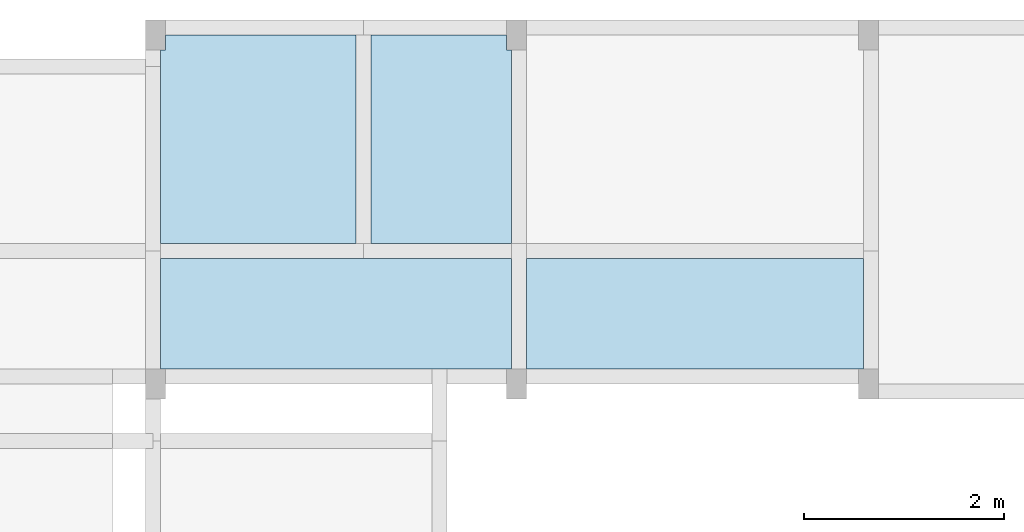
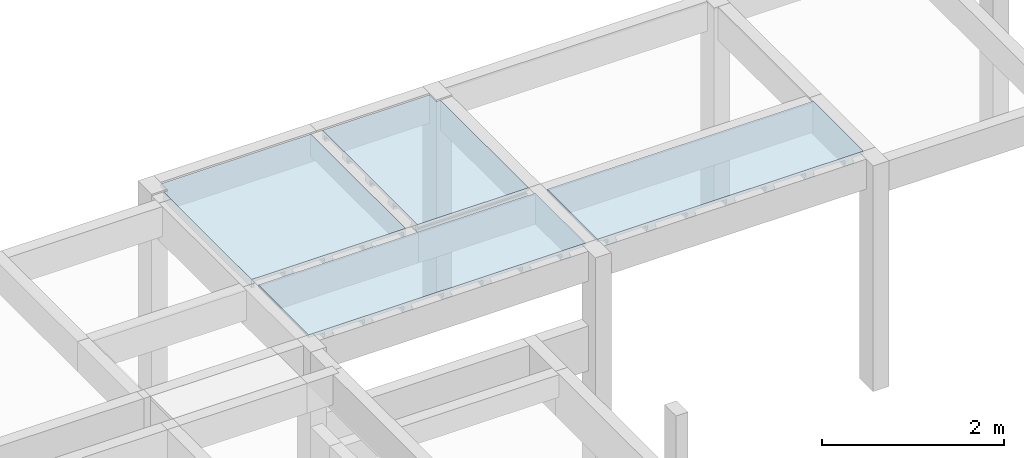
# One storey, part 17 of 21: 4 slabs.
"""IFC4 building model written with IfcOpenShell, lengths in centimetres."""

from ifc_helpers import new_model, si_unit, derived_unit, frame, origin_with_axes, place, context, project, spatial, polyline, outline, extrude, faceted_brep, material, element, save


model = new_model("IFC4")

# Units and contexts
model_context = context("Model", 3, precision=1e-05, world=origin_with_axes(), identifier="Body")
ifc_project = project(units=[si_unit("LENGTHUNIT", "METRE", prefix="CENTI"), si_unit("VOLUMEUNIT", "CUBIC_METRE"), si_unit("AREAUNIT", "SQUARE_METRE"), si_unit("POWERUNIT", "WATT"), si_unit("LUMINOUSFLUXUNIT", "LUMEN"), si_unit("ELECTRICCURRENTUNIT", "AMPERE"), si_unit("PRESSUREUNIT", "PASCAL", prefix="KILO"), si_unit("MASSUNIT", "GRAM", prefix="KILO"), si_unit("PLANEANGLEUNIT", "RADIAN"), derived_unit("VOLUMETRICFLOWRATEUNIT", [(si_unit("LENGTHUNIT", "METRE"), 3), (si_unit("TIMEUNIT", "SECOND"), -1)])], contexts=[model_context])

# Site, building, storey
site_placement = place(None, origin_with_axes())
site = spatial("IfcSite", under=ifc_project, at=site_placement)
building_placement = place(site_placement, frame((0.0, 0.0, -295.0)))
building = spatial("IfcBuilding", under=site, at=building_placement)
placement_1 = place(building_placement, origin_with_axes())
placement_2 = place(placement_1, frame((0.0, 0.0, 101.0), z_axis=(0.0, 0.0, 1.0), x_axis=(1.0, 0.0, 0.0)))
placement_3 = place(placement_2, frame((0.0, 0.0, 204.0), z_axis=(0.0, 0.0, 1.0), x_axis=(1.0, 0.0, 0.0)))
placement_4 = place(placement_3, frame((0.0, 0.0, 292.0), z_axis=(0.0, 0.0, 1.0), x_axis=(1.0, 0.0, 0.0)))
storey_placement = place(placement_4, frame((0.0, 0.0, 302.0), z_axis=(0.0, 0.0, 1.0), x_axis=(1.0, 0.0, 0.0)))
storey = spatial("IfcBuildingStorey", under=building, at=storey_placement, Name="PAVTO 02", CompositionType="ELEMENT", Elevation=604.0)

# Slabs
ifc_material = material(Name="Concreto")
slab_1_placement = place(storey_placement, frame((1286.4, -5190.295006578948, -2.0), z_axis=(0.0, 0.0, 1.0), x_axis=(1.0, 0.0, 0.0)))
element("IfcSlab", 1, at=slab_1_placement, inside=storey, material=ifc_material, Name="L203", PredefinedType="FLOOR", context=model_context, shape_type="SolidModel", body=[
    extrude(outline(polyline([(97.5, 104.045), (-92.5, 104.044), (-92.499, 89.185), (-97.5, 89.184), (-97.5, -104.045), (97.5, -104.045), (97.5, 104.045), (97.5, 104.045)])), frame((0.0, 0.0, -4.0), z_axis=(0.0, 0.0, 1.0), x_axis=(1.0, 0.0, 0.0)), (0.0, 0.0, 1.0), 4.0),
    faceted_brep([(-5.0, -104.04499342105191, -12.0), (-5.0, 104.04450657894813, -12.0), (5.0, 104.04450657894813, -12.0), (5.0, -104.04499342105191, -12.0), (5.0, -104.04499342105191, -4.0), (5.0, 104.04450657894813, -4.0), (-5.0, 104.04450657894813, -4.0), (-5.0, -104.04499342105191, -4.0)], [[[0, 1, 2, 3]], [[4, 5, 6, 7]], [[4, 3, 5]], [[3, 2, 5]], [[5, 2, 6]], [[2, 1, 6]], [[6, 1, 7]], [[1, 0, 7]], [[7, 0, 4]], [[0, 3, 4]]]),
    faceted_brep([(-6.5, -104.04499342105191, -12.0), (-6.5, 104.04450657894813, -12.0), (-5.0, 104.04450657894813, -12.0), (-5.0, -104.04499342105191, -12.0), (-5.0, -104.04499342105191, -9.0), (-5.0, 104.04450657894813, -9.0), (-6.5, 104.04450657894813, -9.0), (-6.5, -104.04499342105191, -9.0)], [[[0, 1, 2, 3]], [[4, 5, 6, 7]], [[4, 3, 5]], [[3, 2, 5]], [[5, 2, 6]], [[2, 1, 6]], [[6, 1, 7]], [[1, 0, 7]], [[7, 0, 4]], [[0, 3, 4]]]),
    faceted_brep([(5.0, -104.04499342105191, -12.0), (5.0, 104.04450657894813, -12.0), (6.5, 104.04450657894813, -12.0), (6.5, -104.04499342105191, -12.0), (6.5, -104.04499342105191, -9.0), (6.5, 104.04450657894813, -9.0), (5.0, 104.04450657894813, -9.0), (5.0, -104.04499342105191, -9.0)], [[[0, 1, 2, 3]], [[4, 5, 6, 7]], [[4, 3, 5]], [[3, 2, 5]], [[5, 2, 6]], [[2, 1, 6]], [[6, 1, 7]], [[1, 0, 7]], [[7, 0, 4]], [[0, 3, 4]]]),
    faceted_brep([(-55.0, -104.04499342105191, -12.0), (-55.0, 104.04450657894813, -12.0), (-45.0, 104.04450657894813, -12.0), (-45.0, -104.04499342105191, -12.0), (-45.0, -104.04499342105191, -4.0), (-45.0, 104.04450657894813, -4.0), (-55.0, 104.04450657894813, -4.0), (-55.0, -104.04499342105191, -4.0)], [[[0, 1, 2, 3]], [[4, 5, 6, 7]], [[4, 3, 5]], [[3, 2, 5]], [[5, 2, 6]], [[2, 1, 6]], [[6, 1, 7]], [[1, 0, 7]], [[7, 0, 4]], [[0, 3, 4]]]),
    faceted_brep([(-56.5, -104.04499342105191, -12.0), (-56.5, 104.04450657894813, -12.0), (-55.0, 104.04450657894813, -12.0), (-55.0, -104.04499342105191, -12.0), (-55.0, -104.04499342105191, -9.0), (-55.0, 104.04450657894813, -9.0), (-56.5, 104.04450657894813, -9.0), (-56.5, -104.04499342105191, -9.0)], [[[0, 1, 2, 3]], [[4, 5, 6, 7]], [[4, 3, 5]], [[3, 2, 5]], [[5, 2, 6]], [[2, 1, 6]], [[6, 1, 7]], [[1, 0, 7]], [[7, 0, 4]], [[0, 3, 4]]]),
    faceted_brep([(-45.0, -104.04499342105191, -12.0), (-45.0, 104.04450657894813, -12.0), (-43.5, 104.04450657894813, -12.0), (-43.5, -104.04499342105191, -12.0), (-43.5, -104.04499342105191, -9.0), (-43.5, 104.04450657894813, -9.0), (-45.0, 104.04450657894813, -9.0), (-45.0, -104.04499342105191, -9.0)], [[[0, 1, 2, 3]], [[4, 5, 6, 7]], [[4, 3, 5]], [[3, 2, 5]], [[5, 2, 6]], [[2, 1, 6]], [[6, 1, 7]], [[1, 0, 7]], [[7, 0, 4]], [[0, 3, 4]]]),
    faceted_brep([(-97.5, -104.04499342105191, -12.0), (-97.5, 89.18450647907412, -12.0), (-95.0, 89.18450657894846, -12.0), (-95.0, -104.04499342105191, -12.0), (-95.0, -104.04499342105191, -4.0), (-95.0, 89.18450657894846, -4.0), (-97.5, 89.18450647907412, -4.0), (-97.5, -104.04499342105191, -4.0)], [[[0, 1, 2, 3]], [[4, 5, 6, 7]], [[4, 3, 5]], [[3, 2, 5]], [[5, 2, 6]], [[2, 1, 6]], [[6, 1, 7]], [[1, 0, 7]], [[7, 0, 4]], [[0, 3, 4]]]),
    faceted_brep([(-95.0, -104.04499342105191, -12.0), (-95.0, 89.18450657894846, -12.0), (-93.5, 89.18450657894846, -12.0), (-93.5, -104.04499342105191, -12.0), (-93.5, -104.04499342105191, -9.0), (-93.5, 89.18450657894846, -9.0), (-95.0, 89.18450657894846, -9.0), (-95.0, -104.04499342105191, -9.0)], [[[0, 1, 2, 3]], [[4, 5, 6, 7]], [[4, 3, 5]], [[3, 2, 5]], [[5, 2, 6]], [[2, 1, 6]], [[6, 1, 7]], [[1, 0, 7]], [[7, 0, 4]], [[0, 3, 4]]]),
    faceted_brep([(45.0, -104.04499342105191, -12.0), (45.0, 104.04450657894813, -12.0), (55.0, 104.04450657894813, -12.0), (55.0, -104.04499342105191, -12.0), (55.0, -104.04499342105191, -4.0), (55.0, 104.04450657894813, -4.0), (45.0, 104.04450657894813, -4.0), (45.0, -104.04499342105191, -4.0)], [[[0, 1, 2, 3]], [[4, 5, 6, 7]], [[4, 3, 5]], [[3, 2, 5]], [[5, 2, 6]], [[2, 1, 6]], [[6, 1, 7]], [[1, 0, 7]], [[7, 0, 4]], [[0, 3, 4]]]),
    faceted_brep([(43.5, -104.04499342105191, -12.0), (43.5, 104.04450657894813, -12.0), (45.0, 104.04450657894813, -12.0), (45.0, -104.04499342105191, -12.0), (45.0, -104.04499342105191, -9.0), (45.0, 104.04450657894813, -9.0), (43.5, 104.04450657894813, -9.0), (43.5, -104.04499342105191, -9.0)], [[[0, 1, 2, 3]], [[4, 5, 6, 7]], [[4, 3, 5]], [[3, 2, 5]], [[5, 2, 6]], [[2, 1, 6]], [[6, 1, 7]], [[1, 0, 7]], [[7, 0, 4]], [[0, 3, 4]]]),
    faceted_brep([(55.0, -104.04499342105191, -12.0), (55.0, 104.04450657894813, -12.0), (56.5, 104.04450657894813, -12.0), (56.5, -104.04499342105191, -12.0), (56.5, -104.04499342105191, -9.0), (56.5, 104.04450657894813, -9.0), (55.0, 104.04450657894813, -9.0), (55.0, -104.04499342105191, -9.0)], [[[0, 1, 2, 3]], [[4, 5, 6, 7]], [[4, 3, 5]], [[3, 2, 5]], [[5, 2, 6]], [[2, 1, 6]], [[6, 1, 7]], [[1, 0, 7]], [[7, 0, 4]], [[0, 3, 4]]]),
    faceted_brep([(95.0, -104.04499342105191, -12.0), (95.0, 104.04450657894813, -12.0), (97.5, 104.044993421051, -12.0), (97.5, -104.04499342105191, -12.0), (97.5, -104.04499342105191, -4.0), (97.5, 104.044993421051, -4.0), (95.0, 104.04450657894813, -4.0), (95.0, -104.04499342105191, -4.0)], [[[0, 1, 2, 3]], [[4, 5, 6, 7]], [[4, 3, 5]], [[3, 2, 5]], [[5, 2, 6]], [[2, 1, 6]], [[6, 1, 7]], [[1, 0, 7]], [[7, 0, 4]], [[0, 3, 4]]]),
    faceted_brep([(93.5, -104.04499342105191, -12.0), (93.5, 104.04450657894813, -12.0), (95.0, 104.04450657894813, -12.0), (95.0, -104.04499342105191, -12.0), (95.0, -104.04499342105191, -9.0), (95.0, 104.04450657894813, -9.0), (93.5, 104.04450657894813, -9.0), (93.5, -104.04499342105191, -9.0)], [[[0, 1, 2, 3]], [[4, 5, 6, 7]], [[4, 3, 5]], [[3, 2, 5]], [[5, 2, 6]], [[2, 1, 6]], [[6, 1, 7]], [[1, 0, 7]], [[7, 0, 4]], [[0, 3, 4]]]),
])
slab_2_placement = place(storey_placement, frame((1469.1505, -5190.295, -2.0), z_axis=(0.0, 0.0, 1.0), x_axis=(1.0, 0.0, 0.0)))
element("IfcSlab", 2, at=slab_2_placement, inside=storey, material=ifc_material, Name="L204", PredefinedType="FLOOR", context=model_context, shape_type="SolidModel", body=[
    extrude(outline(polyline([(70.249, 89.185), (65.25, 89.185), (65.25, 104.045), (-70.249, 104.045), (-70.249, -104.045), (70.25, -104.045), (70.249, 89.185), (70.249, 89.185)])), frame((-0.0005, 0.0, -4.0), z_axis=(0.0, 0.0, 1.0), x_axis=(1.0, 0.0, 0.0)), (0.0, 0.0, 1.0), 4.0),
    faceted_brep([(-70.2495, -90.0, -12.0), (70.249, -90.0, -12.0), (70.249, -100.0, -12.0), (-70.2495, -100.0, -12.0), (-70.2495, -100.0, -4.0), (70.249, -100.0, -4.0), (70.249, -90.0, -4.0), (-70.2495, -90.0, -4.0)], [[[0, 1, 2, 3]], [[4, 5, 6, 7]], [[4, 3, 5]], [[3, 2, 5]], [[5, 2, 6]], [[2, 1, 6]], [[6, 1, 7]], [[1, 0, 7]], [[7, 0, 4]], [[0, 3, 4]]]),
    faceted_brep([(-70.2495, -88.5, -12.0), (70.249, -88.5, -12.0), (70.249, -90.0, -12.0), (-70.2495, -90.0, -12.0), (-70.2495, -90.0, -9.0), (70.249, -90.0, -9.0), (70.249, -88.5, -9.0), (-70.2495, -88.5, -9.0)], [[[0, 1, 2, 3]], [[4, 5, 6, 7]], [[4, 3, 5]], [[3, 2, 5]], [[5, 2, 6]], [[2, 1, 6]], [[6, 1, 7]], [[1, 0, 7]], [[7, 0, 4]], [[0, 3, 4]]]),
    faceted_brep([(-70.2495, -100.0, -12.0), (70.249, -100.0, -12.0), (70.249, -101.5, -12.0), (-70.2495, -101.5, -12.0), (-70.2495, -101.5, -9.0), (70.249, -101.5, -9.0), (70.249, -100.0, -9.0), (-70.2495, -100.0, -9.0)], [[[0, 1, 2, 3]], [[4, 5, 6, 7]], [[4, 3, 5]], [[3, 2, 5]], [[5, 2, 6]], [[2, 1, 6]], [[6, 1, 7]], [[1, 0, 7]], [[7, 0, 4]], [[0, 3, 4]]]),
    faceted_brep([(-70.2495, -40.0, -12.0), (70.249, -40.0, -12.0), (70.249, -50.0, -12.0), (-70.2495, -50.0, -12.0), (-70.2495, -50.0, -4.0), (70.249, -50.0, -4.0), (70.249, -40.0, -4.0), (-70.2495, -40.0, -4.0)], [[[0, 1, 2, 3]], [[4, 5, 6, 7]], [[4, 3, 5]], [[3, 2, 5]], [[5, 2, 6]], [[2, 1, 6]], [[6, 1, 7]], [[1, 0, 7]], [[7, 0, 4]], [[0, 3, 4]]]),
    faceted_brep([(-70.2495, -38.5, -12.0), (70.249, -38.5, -12.0), (70.249, -40.0, -12.0), (-70.2495, -40.0, -12.0), (-70.2495, -40.0, -9.0), (70.249, -40.0, -9.0), (70.249, -38.5, -9.0), (-70.2495, -38.5, -9.0)], [[[0, 1, 2, 3]], [[4, 5, 6, 7]], [[4, 3, 5]], [[3, 2, 5]], [[5, 2, 6]], [[2, 1, 6]], [[6, 1, 7]], [[1, 0, 7]], [[7, 0, 4]], [[0, 3, 4]]]),
    faceted_brep([(-70.2495, -50.0, -12.0), (70.249, -50.0, -12.0), (70.249, -51.5, -12.0), (-70.2495, -51.5, -12.0), (-70.2495, -51.5, -9.0), (70.249, -51.5, -9.0), (70.249, -50.0, -9.0), (-70.2495, -50.0, -9.0)], [[[0, 1, 2, 3]], [[4, 5, 6, 7]], [[4, 3, 5]], [[3, 2, 5]], [[5, 2, 6]], [[2, 1, 6]], [[6, 1, 7]], [[1, 0, 7]], [[7, 0, 4]], [[0, 3, 4]]]),
    faceted_brep([(-70.2495, 10.0, -12.0), (70.249, 10.0, -12.0), (70.249, 0.0, -12.0), (-70.2495, 0.0, -12.0), (-70.2495, 0.0, -4.0), (70.249, 0.0, -4.0), (70.249, 10.0, -4.0), (-70.2495, 10.0, -4.0)], [[[0, 1, 2, 3]], [[4, 5, 6, 7]], [[4, 3, 5]], [[3, 2, 5]], [[5, 2, 6]], [[2, 1, 6]], [[6, 1, 7]], [[1, 0, 7]], [[7, 0, 4]], [[0, 3, 4]]]),
    faceted_brep([(-70.2495, 11.5, -12.0), (70.249, 11.5, -12.0), (70.249, 10.0, -12.0), (-70.2495, 10.0, -12.0), (-70.2495, 10.0, -9.0), (70.249, 10.0, -9.0), (70.249, 11.5, -9.0), (-70.2495, 11.5, -9.0)], [[[0, 1, 2, 3]], [[4, 5, 6, 7]], [[4, 3, 5]], [[3, 2, 5]], [[5, 2, 6]], [[2, 1, 6]], [[6, 1, 7]], [[1, 0, 7]], [[7, 0, 4]], [[0, 3, 4]]]),
    faceted_brep([(-70.2495, 0.0, -12.0), (70.249, 0.0, -12.0), (70.249, -1.5, -12.0), (-70.2495, -1.5, -12.0), (-70.2495, -1.5, -9.0), (70.249, -1.5, -9.0), (70.249, 0.0, -9.0), (-70.2495, 0.0, -9.0)], [[[0, 1, 2, 3]], [[4, 5, 6, 7]], [[4, 3, 5]], [[3, 2, 5]], [[5, 2, 6]], [[2, 1, 6]], [[6, 1, 7]], [[1, 0, 7]], [[7, 0, 4]], [[0, 3, 4]]]),
    faceted_brep([(-70.2495, 60.0, -12.0), (70.249, 60.0, -12.0), (70.249, 50.0, -12.0), (-70.2495, 50.0, -12.0), (-70.2495, 50.0, -4.0), (70.249, 50.0, -4.0), (70.249, 60.0, -4.0), (-70.2495, 60.0, -4.0)], [[[0, 1, 2, 3]], [[4, 5, 6, 7]], [[4, 3, 5]], [[3, 2, 5]], [[5, 2, 6]], [[2, 1, 6]], [[6, 1, 7]], [[1, 0, 7]], [[7, 0, 4]], [[0, 3, 4]]]),
    faceted_brep([(-70.2495, 61.5, -12.0), (70.249, 61.5, -12.0), (70.249, 60.0, -12.0), (-70.2495, 60.0, -12.0), (-70.2495, 60.0, -9.0), (70.249, 60.0, -9.0), (70.249, 61.5, -9.0), (-70.2495, 61.5, -9.0)], [[[0, 1, 2, 3]], [[4, 5, 6, 7]], [[4, 3, 5]], [[3, 2, 5]], [[5, 2, 6]], [[2, 1, 6]], [[6, 1, 7]], [[1, 0, 7]], [[7, 0, 4]], [[0, 3, 4]]]),
    faceted_brep([(-70.2495, 50.0, -12.0), (70.249, 50.0, -12.0), (70.249, 48.5, -12.0), (-70.2495, 48.5, -12.0), (-70.2495, 48.5, -9.0), (70.249, 48.5, -9.0), (70.249, 50.0, -9.0), (-70.2495, 50.0, -9.0)], [[[0, 1, 2, 3]], [[4, 5, 6, 7]], [[4, 3, 5]], [[3, 2, 5]], [[5, 2, 6]], [[2, 1, 6]], [[6, 1, 7]], [[1, 0, 7]], [[7, 0, 4]], [[0, 3, 4]]]),
    faceted_brep([(-70.2495, 104.045, -12.0), (65.2495, 104.045, -12.0), (65.2495, 100.0, -12.0), (-70.2495, 100.0, -12.0), (-70.2495, 100.0, -4.0), (65.2495, 100.0, -4.0), (65.2495, 104.045, -4.0), (-70.2495, 104.045, -4.0)], [[[0, 1, 2, 3]], [[4, 5, 6, 7]], [[4, 3, 5]], [[3, 2, 5]], [[5, 2, 6]], [[2, 1, 6]], [[6, 1, 7]], [[1, 0, 7]], [[7, 0, 4]], [[0, 3, 4]]]),
    faceted_brep([(-70.2495, 100.0, -12.0), (65.2495, 100.0, -12.0), (65.2495, 98.5, -12.0), (-70.2495, 98.5, -12.0), (-70.2495, 98.5, -9.0), (65.2495, 98.5, -9.0), (65.2495, 100.0, -9.0), (-70.2495, 100.0, -9.0)], [[[0, 1, 2, 3]], [[4, 5, 6, 7]], [[4, 3, 5]], [[3, 2, 5]], [[5, 2, 6]], [[2, 1, 6]], [[6, 1, 7]], [[1, 0, 7]], [[7, 0, 4]], [[0, 3, 4]]]),
])
slab_3_placement = place(storey_placement, frame((1364.15, -5364.515, 0.0), z_axis=(0.0, 0.0, 1.0), x_axis=(1.0, 0.0, 0.0)))
element("IfcSlab", 3, at=slab_3_placement, inside=storey, material=ifc_material, Name="L210", PredefinedType="FLOOR", context=model_context, shape_type="SolidModel", body=[
    extrude(outline(polyline([(175.25, 55.174), (-175.249, 55.174), (-175.25, -55.174), (175.25, -55.174), (175.25, 55.174), (175.25, 55.174)])), frame((0.0, 0.0, -4.0), z_axis=(0.0, 0.0, 1.0), x_axis=(1.0, 0.0, 0.0)), (0.0, 0.0, 1.0), 4.0),
    faceted_brep([(-5.0, -55.174, -12.0), (-5.0, 55.174, -12.0), (5.0, 55.174, -12.0), (5.0, -55.174, -12.0), (5.0, -55.174, -4.0), (5.0, 55.174, -4.0), (-5.0, 55.174, -4.0), (-5.0, -55.174, -4.0)], [[[0, 1, 2, 3]], [[4, 5, 6, 7]], [[4, 3, 5]], [[3, 2, 5]], [[5, 2, 6]], [[2, 1, 6]], [[6, 1, 7]], [[1, 0, 7]], [[7, 0, 4]], [[0, 3, 4]]]),
    faceted_brep([(-6.5, -55.174, -12.0), (-6.5, 55.174, -12.0), (-5.0, 55.174, -12.0), (-5.0, -55.174, -12.0), (-5.0, -55.174, -9.0), (-5.0, 55.174, -9.0), (-6.5, 55.174, -9.0), (-6.5, -55.174, -9.0)], [[[0, 1, 2, 3]], [[4, 5, 6, 7]], [[4, 3, 5]], [[3, 2, 5]], [[5, 2, 6]], [[2, 1, 6]], [[6, 1, 7]], [[1, 0, 7]], [[7, 0, 4]], [[0, 3, 4]]]),
    faceted_brep([(5.0, -55.174, -12.0), (5.0, 55.174, -12.0), (6.5, 55.174, -12.0), (6.5, -55.174, -12.0), (6.5, -55.174, -9.0), (6.5, 55.174, -9.0), (5.0, 55.174, -9.0), (5.0, -55.174, -9.0)], [[[0, 1, 2, 3]], [[4, 5, 6, 7]], [[4, 3, 5]], [[3, 2, 5]], [[5, 2, 6]], [[2, 1, 6]], [[6, 1, 7]], [[1, 0, 7]], [[7, 0, 4]], [[0, 3, 4]]]),
    faceted_brep([(-55.0, -55.174, -12.0), (-55.0, 55.174, -12.0), (-45.0, 55.174, -12.0), (-45.0, -55.174, -12.0), (-45.0, -55.174, -4.0), (-45.0, 55.174, -4.0), (-55.0, 55.174, -4.0), (-55.0, -55.174, -4.0)], [[[0, 1, 2, 3]], [[4, 5, 6, 7]], [[4, 3, 5]], [[3, 2, 5]], [[5, 2, 6]], [[2, 1, 6]], [[6, 1, 7]], [[1, 0, 7]], [[7, 0, 4]], [[0, 3, 4]]]),
    faceted_brep([(-56.5, -55.174, -12.0), (-56.5, 55.174, -12.0), (-55.0, 55.174, -12.0), (-55.0, -55.174, -12.0), (-55.0, -55.174, -9.0), (-55.0, 55.174, -9.0), (-56.5, 55.174, -9.0), (-56.5, -55.174, -9.0)], [[[0, 1, 2, 3]], [[4, 5, 6, 7]], [[4, 3, 5]], [[3, 2, 5]], [[5, 2, 6]], [[2, 1, 6]], [[6, 1, 7]], [[1, 0, 7]], [[7, 0, 4]], [[0, 3, 4]]]),
    faceted_brep([(-45.0, -55.174, -12.0), (-45.0, 55.174, -12.0), (-43.5, 55.174, -12.0), (-43.5, -55.174, -12.0), (-43.5, -55.174, -9.0), (-43.5, 55.174, -9.0), (-45.0, 55.174, -9.0), (-45.0, -55.174, -9.0)], [[[0, 1, 2, 3]], [[4, 5, 6, 7]], [[4, 3, 5]], [[3, 2, 5]], [[5, 2, 6]], [[2, 1, 6]], [[6, 1, 7]], [[1, 0, 7]], [[7, 0, 4]], [[0, 3, 4]]]),
    faceted_brep([(-105.0, -55.174, -12.0), (-105.0, 55.174, -12.0), (-95.0, 55.174, -12.0), (-95.0, -55.174, -12.0), (-95.0, -55.174, -4.0), (-95.0, 55.174, -4.0), (-105.0, 55.174, -4.0), (-105.0, -55.174, -4.0)], [[[0, 1, 2, 3]], [[4, 5, 6, 7]], [[4, 3, 5]], [[3, 2, 5]], [[5, 2, 6]], [[2, 1, 6]], [[6, 1, 7]], [[1, 0, 7]], [[7, 0, 4]], [[0, 3, 4]]]),
    faceted_brep([(-106.5, -55.174, -12.0), (-106.5, 55.174, -12.0), (-105.0, 55.174, -12.0), (-105.0, -55.174, -12.0), (-105.0, -55.174, -9.0), (-105.0, 55.174, -9.0), (-106.5, 55.174, -9.0), (-106.5, -55.174, -9.0)], [[[0, 1, 2, 3]], [[4, 5, 6, 7]], [[4, 3, 5]], [[3, 2, 5]], [[5, 2, 6]], [[2, 1, 6]], [[6, 1, 7]], [[1, 0, 7]], [[7, 0, 4]], [[0, 3, 4]]]),
    faceted_brep([(-95.0, -55.174, -12.0), (-95.0, 55.174, -12.0), (-93.5, 55.174, -12.0), (-93.5, -55.174, -12.0), (-93.5, -55.174, -9.0), (-93.5, 55.174, -9.0), (-95.0, 55.174, -9.0), (-95.0, -55.174, -9.0)], [[[0, 1, 2, 3]], [[4, 5, 6, 7]], [[4, 3, 5]], [[3, 2, 5]], [[5, 2, 6]], [[2, 1, 6]], [[6, 1, 7]], [[1, 0, 7]], [[7, 0, 4]], [[0, 3, 4]]]),
    faceted_brep([(-155.0, -55.174, -12.0), (-155.0, 55.174, -12.0), (-145.0, 55.174, -12.0), (-145.0, -55.174, -12.0), (-145.0, -55.174, -4.0), (-145.0, 55.174, -4.0), (-155.0, 55.174, -4.0), (-155.0, -55.174, -4.0)], [[[0, 1, 2, 3]], [[4, 5, 6, 7]], [[4, 3, 5]], [[3, 2, 5]], [[5, 2, 6]], [[2, 1, 6]], [[6, 1, 7]], [[1, 0, 7]], [[7, 0, 4]], [[0, 3, 4]]]),
    faceted_brep([(-156.5, -55.174, -12.0), (-156.5, 55.174, -12.0), (-155.0, 55.174, -12.0), (-155.0, -55.174, -12.0), (-155.0, -55.174, -9.0), (-155.0, 55.174, -9.0), (-156.5, 55.174, -9.0), (-156.5, -55.174, -9.0)], [[[0, 1, 2, 3]], [[4, 5, 6, 7]], [[4, 3, 5]], [[3, 2, 5]], [[5, 2, 6]], [[2, 1, 6]], [[6, 1, 7]], [[1, 0, 7]], [[7, 0, 4]], [[0, 3, 4]]]),
    faceted_brep([(-145.0, -55.174, -12.0), (-145.0, 55.174, -12.0), (-143.5, 55.174, -12.0), (-143.5, -55.174, -12.0), (-143.5, -55.174, -9.0), (-143.5, 55.174, -9.0), (-145.0, 55.174, -9.0), (-145.0, -55.174, -9.0)], [[[0, 1, 2, 3]], [[4, 5, 6, 7]], [[4, 3, 5]], [[3, 2, 5]], [[5, 2, 6]], [[2, 1, 6]], [[6, 1, 7]], [[1, 0, 7]], [[7, 0, 4]], [[0, 3, 4]]]),
    faceted_brep([(45.0, -55.174, -12.0), (45.0, 55.174, -12.0), (55.0, 55.174, -12.0), (55.0, -55.174, -12.0), (55.0, -55.174, -4.0), (55.0, 55.174, -4.0), (45.0, 55.174, -4.0), (45.0, -55.174, -4.0)], [[[0, 1, 2, 3]], [[4, 5, 6, 7]], [[4, 3, 5]], [[3, 2, 5]], [[5, 2, 6]], [[2, 1, 6]], [[6, 1, 7]], [[1, 0, 7]], [[7, 0, 4]], [[0, 3, 4]]]),
    faceted_brep([(43.5, -55.174, -12.0), (43.5, 55.174, -12.0), (45.0, 55.174, -12.0), (45.0, -55.174, -12.0), (45.0, -55.174, -9.0), (45.0, 55.174, -9.0), (43.5, 55.174, -9.0), (43.5, -55.174, -9.0)], [[[0, 1, 2, 3]], [[4, 5, 6, 7]], [[4, 3, 5]], [[3, 2, 5]], [[5, 2, 6]], [[2, 1, 6]], [[6, 1, 7]], [[1, 0, 7]], [[7, 0, 4]], [[0, 3, 4]]]),
    faceted_brep([(55.0, -55.174, -12.0), (55.0, 55.174, -12.0), (56.5, 55.174, -12.0), (56.5, -55.174, -12.0), (56.5, -55.174, -9.0), (56.5, 55.174, -9.0), (55.0, 55.174, -9.0), (55.0, -55.174, -9.0)], [[[0, 1, 2, 3]], [[4, 5, 6, 7]], [[4, 3, 5]], [[3, 2, 5]], [[5, 2, 6]], [[2, 1, 6]], [[6, 1, 7]], [[1, 0, 7]], [[7, 0, 4]], [[0, 3, 4]]]),
    faceted_brep([(95.0, -55.174, -12.0), (95.0, 55.174, -12.0), (105.0, 55.174, -12.0), (105.0, -55.174, -12.0), (105.0, -55.174, -4.0), (105.0, 55.174, -4.0), (95.0, 55.174, -4.0), (95.0, -55.174, -4.0)], [[[0, 1, 2, 3]], [[4, 5, 6, 7]], [[4, 3, 5]], [[3, 2, 5]], [[5, 2, 6]], [[2, 1, 6]], [[6, 1, 7]], [[1, 0, 7]], [[7, 0, 4]], [[0, 3, 4]]]),
    faceted_brep([(93.5, -55.174, -12.0), (93.5, 55.174, -12.0), (95.0, 55.174, -12.0), (95.0, -55.174, -12.0), (95.0, -55.174, -9.0), (95.0, 55.174, -9.0), (93.5, 55.174, -9.0), (93.5, -55.174, -9.0)], [[[0, 1, 2, 3]], [[4, 5, 6, 7]], [[4, 3, 5]], [[3, 2, 5]], [[5, 2, 6]], [[2, 1, 6]], [[6, 1, 7]], [[1, 0, 7]], [[7, 0, 4]], [[0, 3, 4]]]),
    faceted_brep([(105.0, -55.174, -12.0), (105.0, 55.174, -12.0), (106.5, 55.174, -12.0), (106.5, -55.174, -12.0), (106.5, -55.174, -9.0), (106.5, 55.174, -9.0), (105.0, 55.174, -9.0), (105.0, -55.174, -9.0)], [[[0, 1, 2, 3]], [[4, 5, 6, 7]], [[4, 3, 5]], [[3, 2, 5]], [[5, 2, 6]], [[2, 1, 6]], [[6, 1, 7]], [[1, 0, 7]], [[7, 0, 4]], [[0, 3, 4]]]),
    faceted_brep([(145.0, -55.174, -12.0), (145.0, 55.174, -12.0), (155.0, 55.174, -12.0), (155.0, -55.174, -12.0), (155.0, -55.174, -4.0), (155.0, 55.174, -4.0), (145.0, 55.174, -4.0), (145.0, -55.174, -4.0)], [[[0, 1, 2, 3]], [[4, 5, 6, 7]], [[4, 3, 5]], [[3, 2, 5]], [[5, 2, 6]], [[2, 1, 6]], [[6, 1, 7]], [[1, 0, 7]], [[7, 0, 4]], [[0, 3, 4]]]),
    faceted_brep([(143.5, -55.174, -12.0), (143.5, 55.174, -12.0), (145.0, 55.174, -12.0), (145.0, -55.174, -12.0), (145.0, -55.174, -9.0), (145.0, 55.174, -9.0), (143.5, 55.174, -9.0), (143.5, -55.174, -9.0)], [[[0, 1, 2, 3]], [[4, 5, 6, 7]], [[4, 3, 5]], [[3, 2, 5]], [[5, 2, 6]], [[2, 1, 6]], [[6, 1, 7]], [[1, 0, 7]], [[7, 0, 4]], [[0, 3, 4]]]),
    faceted_brep([(155.0, -55.174, -12.0), (155.0, 55.174, -12.0), (156.5, 55.174, -12.0), (156.5, -55.174, -12.0), (156.5, -55.174, -9.0), (156.5, 55.174, -9.0), (155.0, 55.174, -9.0), (155.0, -55.174, -9.0)], [[[0, 1, 2, 3]], [[4, 5, 6, 7]], [[4, 3, 5]], [[3, 2, 5]], [[5, 2, 6]], [[2, 1, 6]], [[6, 1, 7]], [[1, 0, 7]], [[7, 0, 4]], [[0, 3, 4]]]),
])
slab_4_placement = place(storey_placement, frame((1722.6255, -5364.5145, 0.0), z_axis=(0.0, 0.0, 1.0), x_axis=(1.0, 0.0, 0.0)))
element("IfcSlab", 4, at=slab_4_placement, inside=storey, material=ifc_material, Name="L211", PredefinedType="FLOOR", context=model_context, shape_type="SolidModel", body=[
    extrude(outline(polyline([(168.225, 55.175), (-168.224, 55.175), (-168.224, -55.174), (168.224, -55.174), (168.225, 55.175), (168.225, 55.175)])), frame((-0.0005, -0.0005, -4.0), z_axis=(0.0, 0.0, 1.0), x_axis=(1.0, 0.0, 0.0)), (0.0, 0.0, 1.0), 4.0),
    faceted_brep([(-5.0005, -55.1745, -12.0), (-5.0005, 55.1745, -12.0), (4.9995, 55.1745, -12.0), (4.9995, -55.1745, -12.0), (4.9995, -55.1745, -4.0), (4.9995, 55.1745, -4.0), (-5.0005, 55.1745, -4.0), (-5.0005, -55.1745, -4.0)], [[[0, 1, 2, 3]], [[4, 5, 6, 7]], [[4, 3, 5]], [[3, 2, 5]], [[5, 2, 6]], [[2, 1, 6]], [[6, 1, 7]], [[1, 0, 7]], [[7, 0, 4]], [[0, 3, 4]]]),
    faceted_brep([(-6.5005, -55.1745, -12.0), (-6.5005, 55.1745, -12.0), (-5.0005, 55.1745, -12.0), (-5.0005, -55.1745, -12.0), (-5.0005, -55.1745, -9.0), (-5.0005, 55.1745, -9.0), (-6.5005, 55.1745, -9.0), (-6.5005, -55.1745, -9.0)], [[[0, 1, 2, 3]], [[4, 5, 6, 7]], [[4, 3, 5]], [[3, 2, 5]], [[5, 2, 6]], [[2, 1, 6]], [[6, 1, 7]], [[1, 0, 7]], [[7, 0, 4]], [[0, 3, 4]]]),
    faceted_brep([(4.9995, -55.1745, -12.0), (4.9995, 55.1745, -12.0), (6.4995, 55.1745, -12.0), (6.4995, -55.1745, -12.0), (6.4995, -55.1745, -9.0), (6.4995, 55.1745, -9.0), (4.9995, 55.1745, -9.0), (4.9995, -55.1745, -9.0)], [[[0, 1, 2, 3]], [[4, 5, 6, 7]], [[4, 3, 5]], [[3, 2, 5]], [[5, 2, 6]], [[2, 1, 6]], [[6, 1, 7]], [[1, 0, 7]], [[7, 0, 4]], [[0, 3, 4]]]),
    faceted_brep([(-55.0005, -55.1745, -12.0), (-55.0005, 55.1745, -12.0), (-45.0005, 55.1745, -12.0), (-45.0005, -55.1745, -12.0), (-45.0005, -55.1745, -4.0), (-45.0005, 55.1745, -4.0), (-55.0005, 55.1745, -4.0), (-55.0005, -55.1745, -4.0)], [[[0, 1, 2, 3]], [[4, 5, 6, 7]], [[4, 3, 5]], [[3, 2, 5]], [[5, 2, 6]], [[2, 1, 6]], [[6, 1, 7]], [[1, 0, 7]], [[7, 0, 4]], [[0, 3, 4]]]),
    faceted_brep([(-56.5005, -55.1745, -12.0), (-56.5005, 55.1745, -12.0), (-55.0005, 55.1745, -12.0), (-55.0005, -55.1745, -12.0), (-55.0005, -55.1745, -9.0), (-55.0005, 55.1745, -9.0), (-56.5005, 55.1745, -9.0), (-56.5005, -55.1745, -9.0)], [[[0, 1, 2, 3]], [[4, 5, 6, 7]], [[4, 3, 5]], [[3, 2, 5]], [[5, 2, 6]], [[2, 1, 6]], [[6, 1, 7]], [[1, 0, 7]], [[7, 0, 4]], [[0, 3, 4]]]),
    faceted_brep([(-45.0005, -55.1745, -12.0), (-45.0005, 55.1745, -12.0), (-43.5005, 55.1745, -12.0), (-43.5005, -55.1745, -12.0), (-43.5005, -55.1745, -9.0), (-43.5005, 55.1745, -9.0), (-45.0005, 55.1745, -9.0), (-45.0005, -55.1745, -9.0)], [[[0, 1, 2, 3]], [[4, 5, 6, 7]], [[4, 3, 5]], [[3, 2, 5]], [[5, 2, 6]], [[2, 1, 6]], [[6, 1, 7]], [[1, 0, 7]], [[7, 0, 4]], [[0, 3, 4]]]),
    faceted_brep([(-105.0005, -55.1745, -12.0), (-105.0005, 55.1745, -12.0), (-95.0005, 55.1745, -12.0), (-95.0005, -55.1745, -12.0), (-95.0005, -55.1745, -4.0), (-95.0005, 55.1745, -4.0), (-105.0005, 55.1745, -4.0), (-105.0005, -55.1745, -4.0)], [[[0, 1, 2, 3]], [[4, 5, 6, 7]], [[4, 3, 5]], [[3, 2, 5]], [[5, 2, 6]], [[2, 1, 6]], [[6, 1, 7]], [[1, 0, 7]], [[7, 0, 4]], [[0, 3, 4]]]),
    faceted_brep([(-106.5005, -55.1745, -12.0), (-106.5005, 55.1745, -12.0), (-105.0005, 55.1745, -12.0), (-105.0005, -55.1745, -12.0), (-105.0005, -55.1745, -9.0), (-105.0005, 55.1745, -9.0), (-106.5005, 55.1745, -9.0), (-106.5005, -55.1745, -9.0)], [[[0, 1, 2, 3]], [[4, 5, 6, 7]], [[4, 3, 5]], [[3, 2, 5]], [[5, 2, 6]], [[2, 1, 6]], [[6, 1, 7]], [[1, 0, 7]], [[7, 0, 4]], [[0, 3, 4]]]),
    faceted_brep([(-95.0005, -55.1745, -12.0), (-95.0005, 55.1745, -12.0), (-93.5005, 55.1745, -12.0), (-93.5005, -55.1745, -12.0), (-93.5005, -55.1745, -9.0), (-93.5005, 55.1745, -9.0), (-95.0005, 55.1745, -9.0), (-95.0005, -55.1745, -9.0)], [[[0, 1, 2, 3]], [[4, 5, 6, 7]], [[4, 3, 5]], [[3, 2, 5]], [[5, 2, 6]], [[2, 1, 6]], [[6, 1, 7]], [[1, 0, 7]], [[7, 0, 4]], [[0, 3, 4]]]),
    faceted_brep([(-155.0005, -55.1745, -12.0), (-155.0005, 55.1745, -12.0), (-145.0005, 55.1745, -12.0), (-145.0005, -55.1745, -12.0), (-145.0005, -55.1745, -4.0), (-145.0005, 55.1745, -4.0), (-155.0005, 55.1745, -4.0), (-155.0005, -55.1745, -4.0)], [[[0, 1, 2, 3]], [[4, 5, 6, 7]], [[4, 3, 5]], [[3, 2, 5]], [[5, 2, 6]], [[2, 1, 6]], [[6, 1, 7]], [[1, 0, 7]], [[7, 0, 4]], [[0, 3, 4]]]),
    faceted_brep([(-156.5005, -55.1745, -12.0), (-156.5005, 55.1745, -12.0), (-155.0005, 55.1745, -12.0), (-155.0005, -55.1745, -12.0), (-155.0005, -55.1745, -9.0), (-155.0005, 55.1745, -9.0), (-156.5005, 55.1745, -9.0), (-156.5005, -55.1745, -9.0)], [[[0, 1, 2, 3]], [[4, 5, 6, 7]], [[4, 3, 5]], [[3, 2, 5]], [[5, 2, 6]], [[2, 1, 6]], [[6, 1, 7]], [[1, 0, 7]], [[7, 0, 4]], [[0, 3, 4]]]),
    faceted_brep([(-145.0005, -55.1745, -12.0), (-145.0005, 55.1745, -12.0), (-143.5005, 55.1745, -12.0), (-143.5005, -55.1745, -12.0), (-143.5005, -55.1745, -9.0), (-143.5005, 55.1745, -9.0), (-145.0005, 55.1745, -9.0), (-145.0005, -55.1745, -9.0)], [[[0, 1, 2, 3]], [[4, 5, 6, 7]], [[4, 3, 5]], [[3, 2, 5]], [[5, 2, 6]], [[2, 1, 6]], [[6, 1, 7]], [[1, 0, 7]], [[7, 0, 4]], [[0, 3, 4]]]),
    faceted_brep([(44.9995, -55.1745, -12.0), (44.9995, 55.1745, -12.0), (54.9995, 55.1745, -12.0), (54.9995, -55.1745, -12.0), (54.9995, -55.1745, -4.0), (54.9995, 55.1745, -4.0), (44.9995, 55.1745, -4.0), (44.9995, -55.1745, -4.0)], [[[0, 1, 2, 3]], [[4, 5, 6, 7]], [[4, 3, 5]], [[3, 2, 5]], [[5, 2, 6]], [[2, 1, 6]], [[6, 1, 7]], [[1, 0, 7]], [[7, 0, 4]], [[0, 3, 4]]]),
    faceted_brep([(43.4995, -55.1745, -12.0), (43.4995, 55.1745, -12.0), (44.9995, 55.1745, -12.0), (44.9995, -55.1745, -12.0), (44.9995, -55.1745, -9.0), (44.9995, 55.1745, -9.0), (43.4995, 55.1745, -9.0), (43.4995, -55.1745, -9.0)], [[[0, 1, 2, 3]], [[4, 5, 6, 7]], [[4, 3, 5]], [[3, 2, 5]], [[5, 2, 6]], [[2, 1, 6]], [[6, 1, 7]], [[1, 0, 7]], [[7, 0, 4]], [[0, 3, 4]]]),
    faceted_brep([(54.9995, -55.1745, -12.0), (54.9995, 55.1745, -12.0), (56.4995, 55.1745, -12.0), (56.4995, -55.1745, -12.0), (56.4995, -55.1745, -9.0), (56.4995, 55.1745, -9.0), (54.9995, 55.1745, -9.0), (54.9995, -55.1745, -9.0)], [[[0, 1, 2, 3]], [[4, 5, 6, 7]], [[4, 3, 5]], [[3, 2, 5]], [[5, 2, 6]], [[2, 1, 6]], [[6, 1, 7]], [[1, 0, 7]], [[7, 0, 4]], [[0, 3, 4]]]),
    faceted_brep([(94.9995, -55.1745, -12.0), (94.9995, 55.1745, -12.0), (104.9995, 55.1745, -12.0), (104.9995, -55.1745, -12.0), (104.9995, -55.1745, -4.0), (104.9995, 55.1745, -4.0), (94.9995, 55.1745, -4.0), (94.9995, -55.1745, -4.0)], [[[0, 1, 2, 3]], [[4, 5, 6, 7]], [[4, 3, 5]], [[3, 2, 5]], [[5, 2, 6]], [[2, 1, 6]], [[6, 1, 7]], [[1, 0, 7]], [[7, 0, 4]], [[0, 3, 4]]]),
    faceted_brep([(93.4995, -55.1745, -12.0), (93.4995, 55.1745, -12.0), (94.9995, 55.1745, -12.0), (94.9995, -55.1745, -12.0), (94.9995, -55.1745, -9.0), (94.9995, 55.1745, -9.0), (93.4995, 55.1745, -9.0), (93.4995, -55.1745, -9.0)], [[[0, 1, 2, 3]], [[4, 5, 6, 7]], [[4, 3, 5]], [[3, 2, 5]], [[5, 2, 6]], [[2, 1, 6]], [[6, 1, 7]], [[1, 0, 7]], [[7, 0, 4]], [[0, 3, 4]]]),
    faceted_brep([(104.9995, -55.1745, -12.0), (104.9995, 55.1745, -12.0), (106.4995, 55.1745, -12.0), (106.4995, -55.1745, -12.0), (106.4995, -55.1745, -9.0), (106.4995, 55.1745, -9.0), (104.9995, 55.1745, -9.0), (104.9995, -55.1745, -9.0)], [[[0, 1, 2, 3]], [[4, 5, 6, 7]], [[4, 3, 5]], [[3, 2, 5]], [[5, 2, 6]], [[2, 1, 6]], [[6, 1, 7]], [[1, 0, 7]], [[7, 0, 4]], [[0, 3, 4]]]),
    faceted_brep([(144.9995, -55.1745, -12.0), (144.9995, 55.1745, -12.0), (154.9995, 55.1745, -12.0), (154.9995, -55.1745, -12.0), (154.9995, -55.1745, -4.0), (154.9995, 55.1745, -4.0), (144.9995, 55.1745, -4.0), (144.9995, -55.1745, -4.0)], [[[0, 1, 2, 3]], [[4, 5, 6, 7]], [[4, 3, 5]], [[3, 2, 5]], [[5, 2, 6]], [[2, 1, 6]], [[6, 1, 7]], [[1, 0, 7]], [[7, 0, 4]], [[0, 3, 4]]]),
    faceted_brep([(143.4995, -55.1745, -12.0), (143.4995, 55.1745, -12.0), (144.9995, 55.1745, -12.0), (144.9995, -55.1745, -12.0), (144.9995, -55.1745, -9.0), (144.9995, 55.1745, -9.0), (143.4995, 55.1745, -9.0), (143.4995, -55.1745, -9.0)], [[[0, 1, 2, 3]], [[4, 5, 6, 7]], [[4, 3, 5]], [[3, 2, 5]], [[5, 2, 6]], [[2, 1, 6]], [[6, 1, 7]], [[1, 0, 7]], [[7, 0, 4]], [[0, 3, 4]]]),
    faceted_brep([(154.9995, -55.1745, -12.0), (154.9995, 55.1745, -12.0), (156.4995, 55.1745, -12.0), (156.4995, -55.1745, -12.0), (156.4995, -55.1745, -9.0), (156.4995, 55.1745, -9.0), (154.9995, 55.1745, -9.0), (154.9995, -55.1745, -9.0)], [[[0, 1, 2, 3]], [[4, 5, 6, 7]], [[4, 3, 5]], [[3, 2, 5]], [[5, 2, 6]], [[2, 1, 6]], [[6, 1, 7]], [[1, 0, 7]], [[7, 0, 4]], [[0, 3, 4]]]),
])

save(model, "model.ifc")
